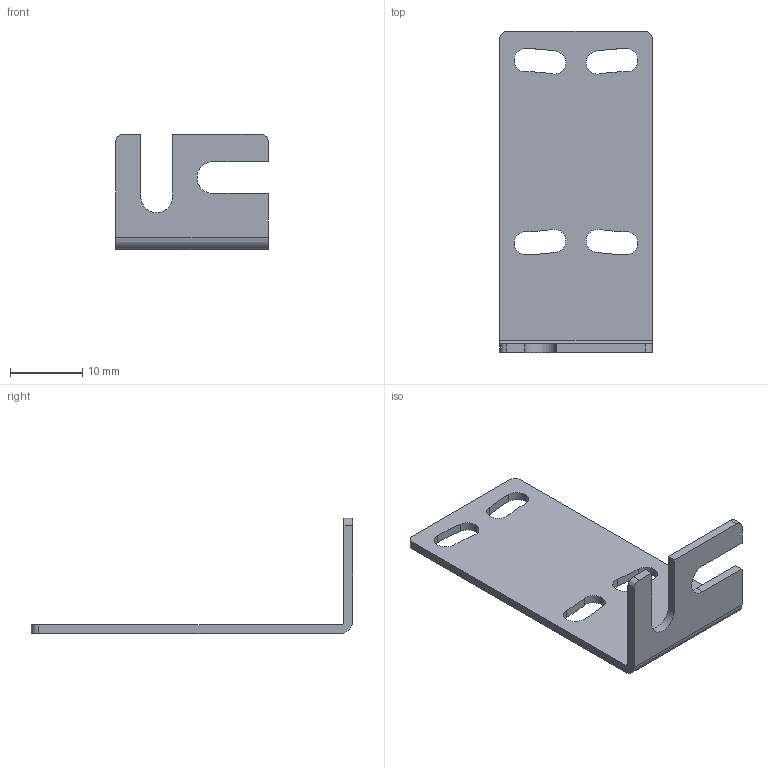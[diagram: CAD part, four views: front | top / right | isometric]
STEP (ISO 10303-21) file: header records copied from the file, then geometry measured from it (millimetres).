
FILE_DESCRIPTION(('OneSpaceDesigner STEP Export'),'2;1');
FILE_NAME('BEF-W100-B.stp','2009-07-06T20:51:13',(''),(''),'OneSpace Designer STEP processor for AP214 (Solid Model)','OneSpace Modeling 15.00A 14-Mar-2007 (C) CoCreate Software GmbH','');
FILE_SCHEMA(('AUTOMOTIVE_DESIGN { 1 0 10303 214 1 1 1 1 }'));
Length unit declared in the file: millimetre
Products named in the file (1): BEF-W100-B
Bounding box: 21.2 x 44.6 x 16 mm (x, y, z)
Volume: 1293.4 mm3; surface area: 2477.8 mm2
Topology: 1 solids, 1 shells, 47 faces, 135 edges, 90 vertices
Faces by surface type: cylinder 33, plane 14
Entity records: 1478 total; most frequent: ORIENTED_EDGE 270, CARTESIAN_POINT 246, DIRECTION 243, EDGE_CURVE 135, VERTEX_POINT 90, AXIS2_PLACEMENT_3D 87, VECTOR 69, LINE 69
